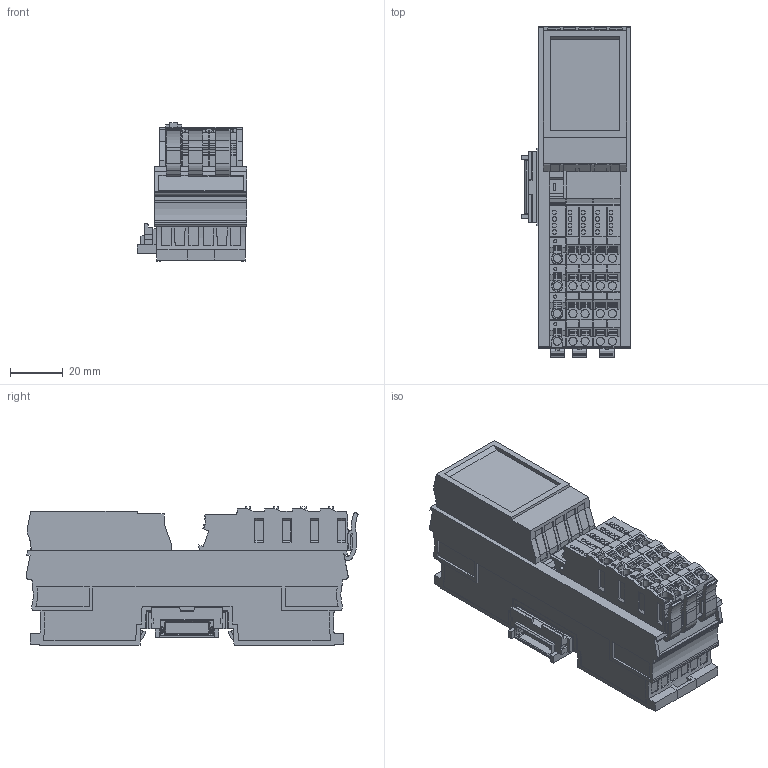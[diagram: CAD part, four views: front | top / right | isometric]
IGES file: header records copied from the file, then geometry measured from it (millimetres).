
Start section:  PTC IGES file: cu_rem-11102.igs
Global section: file name: cu_rem-11102.igs; native system: Creo Parametric by PTC Inc.; preprocessor: 2015380; author: dkendric; organization: Unknown; date: 20170511.094302; units: inch
Bounding box: 41.8 x 126.17 x 52.55 mm (x, y, z)
Surface area: 43156.4 mm2 (no closed solid volume)
Topology: 0 solids, 0 shells, 2028 faces, 11510 edges, 11510 vertices
Faces by surface type: bspline 1649, revolution 379
